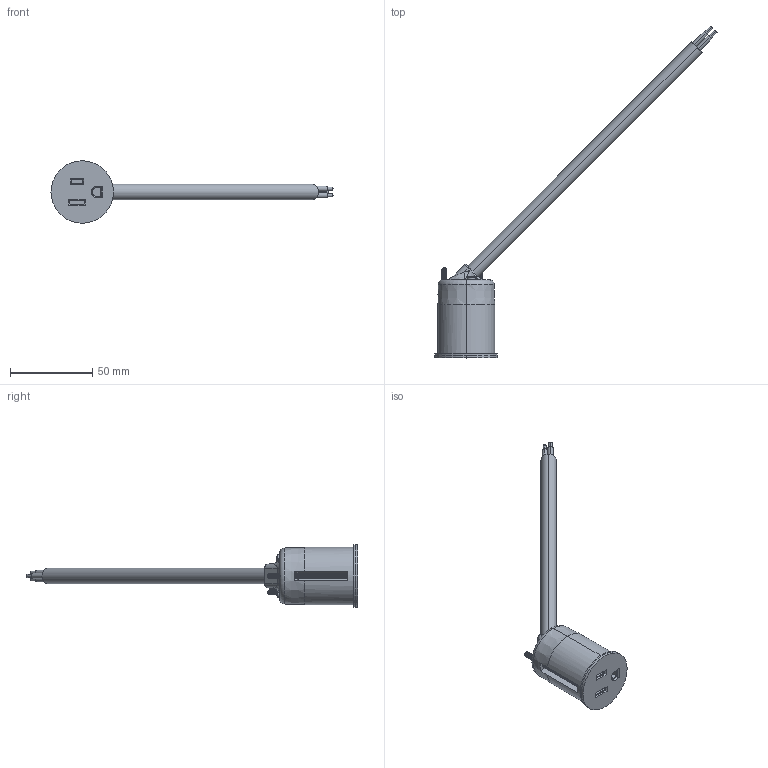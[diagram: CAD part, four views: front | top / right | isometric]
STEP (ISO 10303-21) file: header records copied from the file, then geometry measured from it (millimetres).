
FILE_DESCRIPTION((''),'2;1');
FILE_NAME('A1440676_ASM','2024-05-24T14:37:33',('FDR'),(''),'CREO PARAMETRIC BY PTC INC, 2023494','CREO PARAMETRIC BY PTC INC, 2023494','');
FILE_SCHEMA(('AP242_MANAGED_MODEL_BASED_3D_ENGINEERING_MIM_LF { 1 0 10303 442 1 1 4 }'));
Length unit declared in the file: millimetre
Products named in the file (6): A1440677; A1414504; A1440662; A1129498; A1401071; A1440676_ASM
Assembly tree (7 placements, depth 2):
  A1440676_ASM
    A1440677
    A1414504  x2
    A1440662
    A1129498  x2
    A1401071
Bounding box: 171.07 x 201.35 x 37.9 mm (x, y, z)
Volume: 57415.5 mm3; surface area: 20152.7 mm2
Topology: 7 solids, 7 shells, 1239 faces, 3526 edges, 2372 vertices
Faces by surface type: cylinder 585, bspline 322, plane 156, cone 66, torus 66, sphere 44
Entity records: 64228 total; most frequent: CARTESIAN_POINT 34017, ORIENTED_EDGE 3796, DIRECTION 3023, PRESENTATION_STYLE_ASSIGNMENT 2582, STYLED_ITEM 2185, CURVE_STYLE 2179, EDGE_CURVE 1898, VERTEX_POINT 1179
